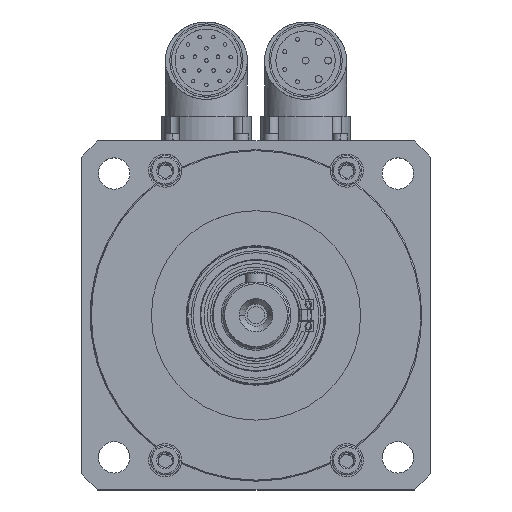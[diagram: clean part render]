
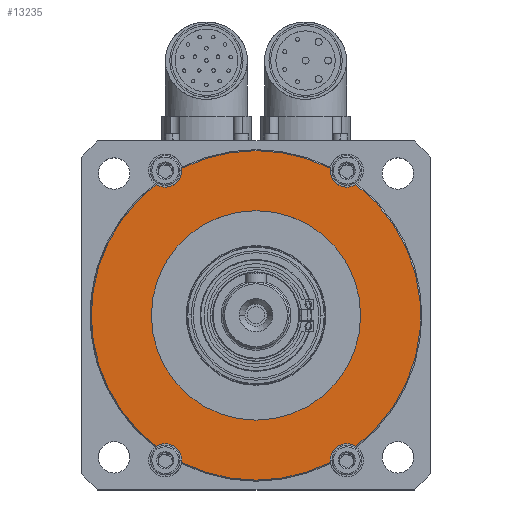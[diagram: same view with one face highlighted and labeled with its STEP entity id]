
A CAD part, top view. The second image highlights one B-rep face of the part: STEP entity #13235.
In plain terms, the highlighted planar face has unit normal (0, 0, 1).
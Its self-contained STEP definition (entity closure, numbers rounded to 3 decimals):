
#627 = CARTESIAN_POINT ( 'NONE',  ( 26., 41.5, 20. ) ) ;
#631 = CARTESIAN_POINT ( 'NONE',  ( 26., -41.5, 20. ) ) ;
#632 = DIRECTION ( 'NONE',  ( 0., 0., 1. ) ) ;
#633 = DIRECTION ( 'NONE',  ( 1., 0., 0. ) ) ;
#635 = CARTESIAN_POINT ( 'NONE',  ( 0., 0., 20. ) ) ;
#639 = DIRECTION ( 'NONE',  ( 0., 0., 1. ) ) ;
#640 = DIRECTION ( 'NONE',  ( 1., 0., 0. ) ) ;
#644 = DIRECTION ( 'NONE',  ( 0., 0., 1. ) ) ;
#645 = DIRECTION ( 'NONE',  ( 1., 0., 0. ) ) ;
#694 = CARTESIAN_POINT ( 'NONE',  ( -26., -41.5, 20. ) ) ;
#808 = DIRECTION ( 'NONE',  ( 1., 0., 0. ) ) ;
#809 = DIRECTION ( 'NONE',  ( 0., 0., 1. ) ) ;
#811 = CARTESIAN_POINT ( 'NONE',  ( 0., 0., 20. ) ) ;
#822 = DIRECTION ( 'NONE',  ( 1., 0., 0. ) ) ;
#824 = DIRECTION ( 'NONE',  ( 0., 0., 1. ) ) ;
#827 = CARTESIAN_POINT ( 'NONE',  ( 0., 0., 20. ) ) ;
#828 = DIRECTION ( 'NONE',  ( 1., 0., 0. ) ) ;
#829 = DIRECTION ( 'NONE',  ( 0., 0., 1. ) ) ;
#835 = CARTESIAN_POINT ( 'NONE',  ( -26., 41.5, 20. ) ) ;
#879 = DIRECTION ( 'NONE',  ( 1., 0., 0. ) ) ;
#886 = DIRECTION ( 'NONE',  ( 0., 0., 1. ) ) ;
#888 = CARTESIAN_POINT ( 'NONE',  ( -26., 41.5, 20. ) ) ;
#961 = DIRECTION ( 'NONE',  ( 1., 0., 0. ) ) ;
#963 = DIRECTION ( 'NONE',  ( 0., 0., 1. ) ) ;
#1229 = AXIS2_PLACEMENT_3D ( 'NONE', #9353, #9365, #9367 ) ;
#1281 = AXIS2_PLACEMENT_3D ( 'NONE', #14999, #15000, #15001 ) ;
#1416 = AXIS2_PLACEMENT_3D ( 'NONE', #631, #639, #640 ) ;
#1417 = AXIS2_PLACEMENT_3D ( 'NONE', #627, #632, #633 ) ;
#1420 = AXIS2_PLACEMENT_3D ( 'NONE', #635, #644, #645 ) ;
#1526 = ORIENTED_EDGE ( 'NONE', *, *, #12432, .F. ) ;
#1527 = ORIENTED_EDGE ( 'NONE', *, *, #7219, .F. ) ;
#4668 = ORIENTED_EDGE ( 'NONE', *, *, #7007, .F. ) ;
#4669 = ORIENTED_EDGE ( 'NONE', *, *, #6984, .T. ) ;
#4670 = ORIENTED_EDGE ( 'NONE', *, *, #7013, .T. ) ;
#4671 = ORIENTED_EDGE ( 'NONE', *, *, #6990, .F. ) ;
#4672 = ORIENTED_EDGE ( 'NONE', *, *, #7135, .F. ) ;
#4673 = ORIENTED_EDGE ( 'NONE', *, *, #12442, .T. ) ;
#4674 = ORIENTED_EDGE ( 'NONE', *, *, #12429, .F. ) ;
#4675 = ORIENTED_EDGE ( 'NONE', *, *, #9927, .F. ) ;
#4676 = ORIENTED_EDGE ( 'NONE', *, *, #9929, .T. ) ;
#4677 = ORIENTED_EDGE ( 'NONE', *, *, #12416, .F. ) ;
#4678 = ORIENTED_EDGE ( 'NONE', *, *, #9925, .F. ) ;
#4679 = ORIENTED_EDGE ( 'NONE', *, *, #12440, .T. ) ;
#4680 = ORIENTED_EDGE ( 'NONE', *, *, #6979, .F. ) ;
#4988 = FACE_OUTER_BOUND ( 'NONE', #14396, .T. ) ;
#4994 = FACE_BOUND ( 'NONE', #14400, .T. ) ;
#5298 = AXIS2_PLACEMENT_3D ( 'NONE', #13591, #13647, #13648 ) ;
#5300 = AXIS2_PLACEMENT_3D ( 'NONE', #13675, #13682, #13683 ) ;
#5306 = AXIS2_PLACEMENT_3D ( 'NONE', #13684, #13690, #13691 ) ;
#5310 = AXIS2_PLACEMENT_3D ( 'NONE', #13720, #13721, #13722 ) ;
#5311 = AXIS2_PLACEMENT_3D ( 'NONE', #13711, #13715, #13716 ) ;
#5527 = CARTESIAN_POINT ( 'NONE',  ( -50., 50., 20. ) ) ;
#5528 = PLANE ( 'NONE',  #16590 ) ;
#5530 = DIRECTION ( 'NONE',  ( 0., 0., 1. ) ) ;
#5531 = DIRECTION ( 'NONE',  ( 1., 0., 0. ) ) ;
#5876 = CARTESIAN_POINT ( 'NONE',  ( -21.25, -41.5, 20. ) ) ;
#5923 = CARTESIAN_POINT ( 'NONE',  ( 21.291, -42.125, 20. ) ) ;
#5962 = CARTESIAN_POINT ( 'NONE',  ( 21.25, 41.5, 20. ) ) ;
#6036 = CARTESIAN_POINT ( 'NONE',  ( 30., 0., 20. ) ) ;
#6046 = CARTESIAN_POINT ( 'NONE',  ( -28.617, -37.536, 20. ) ) ;
#6047 = CARTESIAN_POINT ( 'NONE',  ( -21.291, -42.125, 20. ) ) ;
#6074 = CARTESIAN_POINT ( 'NONE',  ( 21.291, 42.125, 20. ) ) ;
#6089 = CARTESIAN_POINT ( 'NONE',  ( 21.25, -41.5, 20. ) ) ;
#6979 = EDGE_CURVE ( 'NONE', #11193, #11196, #10421, .T. ) ;
#6984 = EDGE_CURVE ( 'NONE', #11302, #11074, #10426, .T. ) ;
#6990 = EDGE_CURVE ( 'NONE', #15294, #15464, #10436, .T. ) ;
#7007 = EDGE_CURVE ( 'NONE', #11302, #11193, #10455, .T. ) ;
#7013 = EDGE_CURVE ( 'NONE', #11074, #15464, #10463, .T. ) ;
#7135 = EDGE_CURVE ( 'NONE', #15465, #15294, #13379, .T. ) ;
#7219 = EDGE_CURVE ( 'NONE', #11322, #15454, #13490, .T. ) ;
#8262 = CIRCLE ( 'NONE', #5298, 4.75 ) ;
#8276 = CIRCLE ( 'NONE', #5300, 4.75 ) ;
#8280 = CIRCLE ( 'NONE', #5306, 30. ) ;
#8290 = CIRCLE ( 'NONE', #5311, 47.2 ) ;
#8292 = CIRCLE ( 'NONE', #5310, 47.2 ) ;
#9353 = CARTESIAN_POINT ( 'NONE',  ( -26., -41.5, 20. ) ) ;
#9365 = DIRECTION ( 'NONE',  ( 0., 0., 1. ) ) ;
#9367 = DIRECTION ( 'NONE',  ( 1., 0., 0. ) ) ;
#9583 = AXIS2_PLACEMENT_3D ( 'NONE', #888, #886, #879 ) ;
#9589 = AXIS2_PLACEMENT_3D ( 'NONE', #827, #824, #822 ) ;
#9591 = AXIS2_PLACEMENT_3D ( 'NONE', #694, #963, #961 ) ;
#9600 = AXIS2_PLACEMENT_3D ( 'NONE', #835, #829, #828 ) ;
#9606 = AXIS2_PLACEMENT_3D ( 'NONE', #811, #809, #808 ) ;
#9925 = EDGE_CURVE ( 'NONE', #15492, #15380, #10055, .T. ) ;
#9927 = EDGE_CURVE ( 'NONE', #11205, #15507, #10059, .T. ) ;
#9929 = EDGE_CURVE ( 'NONE', #11205, #11078, #10062, .T. ) ;
#10055 = CIRCLE ( 'NONE', #1417, 4.75 ) ;
#10059 = CIRCLE ( 'NONE', #1416, 4.75 ) ;
#10062 = CIRCLE ( 'NONE', #1420, 47.2 ) ;
#10421 = CIRCLE ( 'NONE', #9583, 4.75 ) ;
#10426 = CIRCLE ( 'NONE', #9589, 47.2 ) ;
#10436 = CIRCLE ( 'NONE', #9591, 4.75 ) ;
#10455 = CIRCLE ( 'NONE', #9600, 4.75 ) ;
#10463 = CIRCLE ( 'NONE', #9606, 47.2 ) ;
#11074 = VERTEX_POINT ( 'NONE', #15765 ) ;
#11078 = VERTEX_POINT ( 'NONE', #15769 ) ;
#11193 = VERTEX_POINT ( 'NONE', #15884 ) ;
#11196 = VERTEX_POINT ( 'NONE', #15887 ) ;
#11205 = VERTEX_POINT ( 'NONE', #15896 ) ;
#11302 = VERTEX_POINT ( 'NONE', #15993 ) ;
#11322 = VERTEX_POINT ( 'NONE', #16013 ) ;
#12416 = EDGE_CURVE ( 'NONE', #15380, #11078, #8262, .T. ) ;
#12429 = EDGE_CURVE ( 'NONE', #15507, #15341, #8276, .T. ) ;
#12432 = EDGE_CURVE ( 'NONE', #15454, #11322, #8280, .T. ) ;
#12440 = EDGE_CURVE ( 'NONE', #15492, #11196, #8290, .T. ) ;
#12442 = EDGE_CURVE ( 'NONE', #15465, #15341, #8292, .T. ) ;
#13235 = ADVANCED_FACE ( 'NONE', ( #4988, #4994 ), #5528, .T. ) ;
#13379 = CIRCLE ( 'NONE', #1229, 4.75 ) ;
#13490 = CIRCLE ( 'NONE', #1281, 30. ) ;
#13591 = CARTESIAN_POINT ( 'NONE',  ( 26., 41.5, 20. ) ) ;
#13647 = DIRECTION ( 'NONE',  ( 0., 0., 1. ) ) ;
#13648 = DIRECTION ( 'NONE',  ( 1., 0., 0. ) ) ;
#13675 = CARTESIAN_POINT ( 'NONE',  ( 26., -41.5, 20. ) ) ;
#13682 = DIRECTION ( 'NONE',  ( 0., 0., 1. ) ) ;
#13683 = DIRECTION ( 'NONE',  ( 1., 0., 0. ) ) ;
#13684 = CARTESIAN_POINT ( 'NONE',  ( 0., 0., 20. ) ) ;
#13690 = DIRECTION ( 'NONE',  ( 0., 0., 1. ) ) ;
#13691 = DIRECTION ( 'NONE',  ( 1., 0., 0. ) ) ;
#13711 = CARTESIAN_POINT ( 'NONE',  ( 0., 0., 20. ) ) ;
#13715 = DIRECTION ( 'NONE',  ( 0., 0., 1. ) ) ;
#13716 = DIRECTION ( 'NONE',  ( 1., 0., 0. ) ) ;
#13720 = CARTESIAN_POINT ( 'NONE',  ( 0., 0., 20. ) ) ;
#13721 = DIRECTION ( 'NONE',  ( 0., 0., 1. ) ) ;
#13722 = DIRECTION ( 'NONE',  ( 1., 0., 0. ) ) ;
#14396 = EDGE_LOOP ( 'NONE', ( #4668, #4669, #4670, #4671, #4672, #4673, #4674, #4675, #4676, #4677, #4678, #4679, #4680 ) ) ;
#14400 = EDGE_LOOP ( 'NONE', ( #1526, #1527 ) ) ;
#14999 = CARTESIAN_POINT ( 'NONE',  ( 0., 0., 20. ) ) ;
#15000 = DIRECTION ( 'NONE',  ( 0., 0., 1. ) ) ;
#15001 = DIRECTION ( 'NONE',  ( 1., 0., 0. ) ) ;
#15294 = VERTEX_POINT ( 'NONE', #5876 ) ;
#15341 = VERTEX_POINT ( 'NONE', #5923 ) ;
#15380 = VERTEX_POINT ( 'NONE', #5962 ) ;
#15454 = VERTEX_POINT ( 'NONE', #6036 ) ;
#15464 = VERTEX_POINT ( 'NONE', #6046 ) ;
#15465 = VERTEX_POINT ( 'NONE', #6047 ) ;
#15492 = VERTEX_POINT ( 'NONE', #6074 ) ;
#15507 = VERTEX_POINT ( 'NONE', #6089 ) ;
#15765 = CARTESIAN_POINT ( 'NONE',  ( -47.2, 0., 20. ) ) ;
#15769 = CARTESIAN_POINT ( 'NONE',  ( 28.617, 37.536, 20. ) ) ;
#15884 = CARTESIAN_POINT ( 'NONE',  ( -21.25, 41.5, 20. ) ) ;
#15887 = CARTESIAN_POINT ( 'NONE',  ( -21.291, 42.125, 20. ) ) ;
#15896 = CARTESIAN_POINT ( 'NONE',  ( 28.617, -37.536, 20. ) ) ;
#15993 = CARTESIAN_POINT ( 'NONE',  ( -28.617, 37.536, 20. ) ) ;
#16013 = CARTESIAN_POINT ( 'NONE',  ( -30., 0., 20. ) ) ;
#16590 = AXIS2_PLACEMENT_3D ( 'NONE', #5527, #5530, #5531 ) ;
